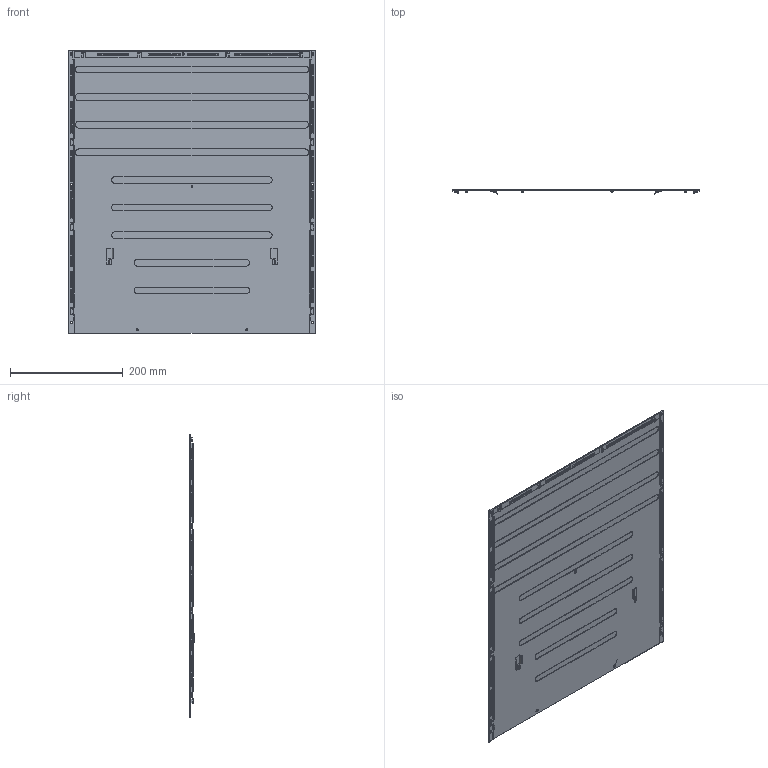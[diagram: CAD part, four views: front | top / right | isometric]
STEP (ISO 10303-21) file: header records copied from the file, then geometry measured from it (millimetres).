
FILE_DESCRIPTION(('Creo Elements/Direct Modeling STEP Export'),'2;1');
FILE_NAME('123200000693A-R1A-20150811.stp','2015-08-11T20:15:29',(''),(''),'PTC Creo Elements/Direct Modeling STEP processor for AP214 (Solid Model)','PTC Creo Elements/Direct Modeling 19.0A 04-Oct-2014 (C) Parametric Technology GmbH','');
FILE_SCHEMA(('AUTOMOTIVE_DESIGN { 1 0 10303 214 1 1 1 1 }'));
Length unit declared in the file: millimetre
Products named in the file (5): COVER_ES5696BT; hook-R; hook-L; emi-gasket-55x3x1.2; 123200000693A(727A)-COVER
Assembly tree (20 placements, depth 2):
  123200000693A(727A)-COVER
    emi-gasket-55x3x1.2  x17
    hook-L
    hook-R
    COVER_ES5696BT
Bounding box: 438.4 x 7.3 x 501.9 mm (x, y, z)
Volume: 194256.7 mm3; surface area: 487191.6 mm2
Topology: 20 solids, 20 shells, 728 faces, 1933 edges, 1265 vertices
Faces by surface type: plane 508, cylinder 200, cone 20
Entity records: 18754 total; most frequent: ORIENTED_EDGE 3290, CARTESIAN_POINT 3230, DIRECTION 3048, EDGE_CURVE 1645, VECTOR 1266, LINE 1266, VERTEX_POINT 1073, AXIS2_PLACEMENT_3D 891
